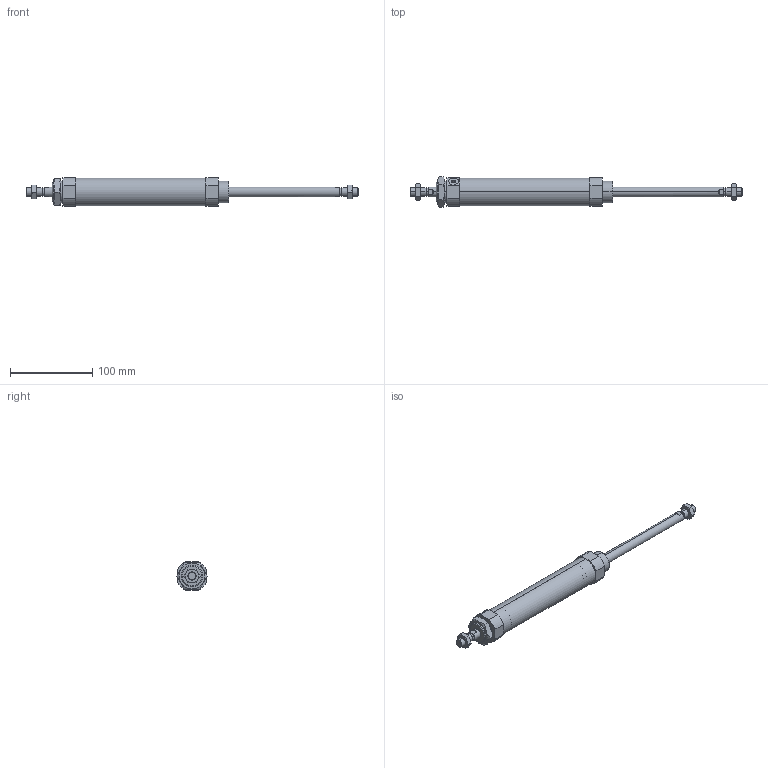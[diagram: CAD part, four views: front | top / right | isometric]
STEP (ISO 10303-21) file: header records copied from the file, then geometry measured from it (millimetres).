
FILE_DESCRIPTION (( 'STEP AP203' ), '1' );
FILE_NAME ('CSM2B32-125-P.STEP', '2020-07-20T16:46:57', ( '' ), ( '' ), 'SwSTEP 2.0', 'SolidWorks 2019', '' );
FILE_SCHEMA (( 'CONFIG_CONTROL_DESIGN' ));
Length unit declared in the file: millimetre
Products named in the file (1): CSM2B32-125-P
Bounding box: 404 x 36.95 x 34.5 mm (x, y, z)
Volume: 125241.1 mm3; surface area: 63465.6 mm2
Topology: 5 solids, 5 shells, 149 faces, 346 edges, 217 vertices
Faces by surface type: plane 57, cylinder 48, cone 44
Entity records: 5397 total; most frequent: CARTESIAN_POINT 1949, DIRECTION 714, ORIENTED_EDGE 680, EDGE_CURVE 340, AXIS2_PLACEMENT_3D 282, VERTEX_POINT 217, EDGE_LOOP 173, LINE 150
